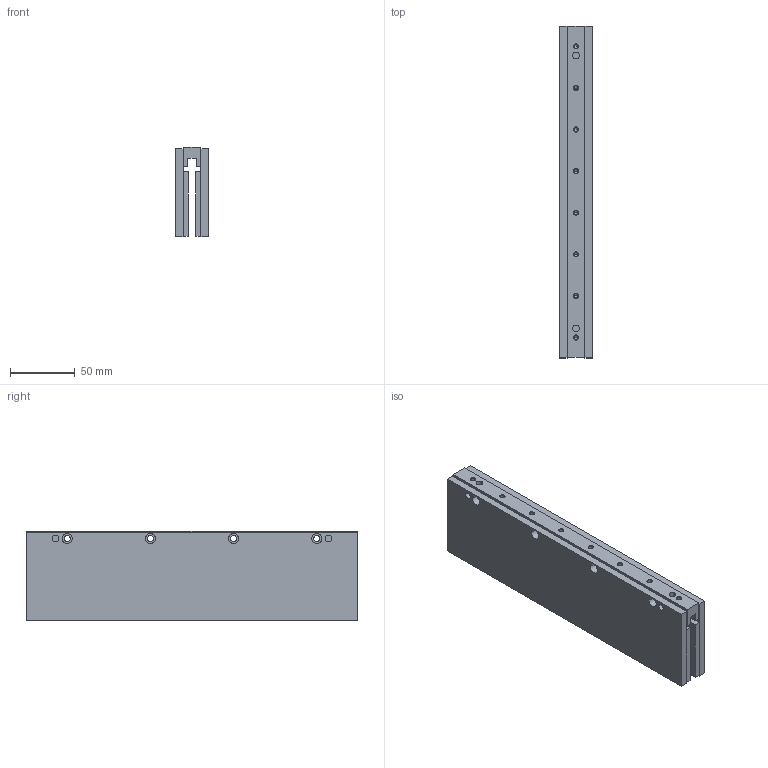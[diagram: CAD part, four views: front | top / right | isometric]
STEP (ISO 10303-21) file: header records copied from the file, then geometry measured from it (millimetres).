
FILE_DESCRIPTION((''),'2;1');
FILE_NAME('MW050L-0256','2007-01-14T',('saurabh.singhal'),(''),'PRO/ENGINEER BY PARAMETRIC TECHNOLOGY CORPORATION, 2005450','PRO/ENGINEER BY PARAMETRIC TECHNOLOGY CORPORATION, 2005450','');
FILE_SCHEMA(('CONFIG_CONTROL_DESIGN'));
Length unit declared in the file: millimetre
Products named in the file (1): MW050L-0256
Bounding box: 25.4 x 255.3 x 69 mm (x, y, z)
Volume: 339375 mm3; surface area: 89954.4 mm2
Topology: 1 solids, 9 shells, 150 faces, 365 edges, 235 vertices
Faces by surface type: cylinder 68, plane 66, cone 16
Entity records: 4380 total; most frequent: DIRECTION 803, CARTESIAN_POINT 735, ORIENTED_EDGE 666, EDGE_CURVE 349, AXIS2_PLACEMENT_3D 303, VERTEX_POINT 235, VECTOR 197, LINE 197
